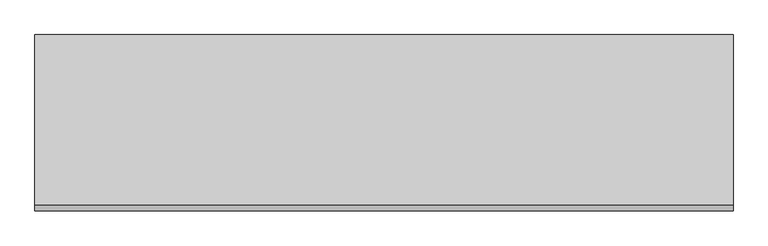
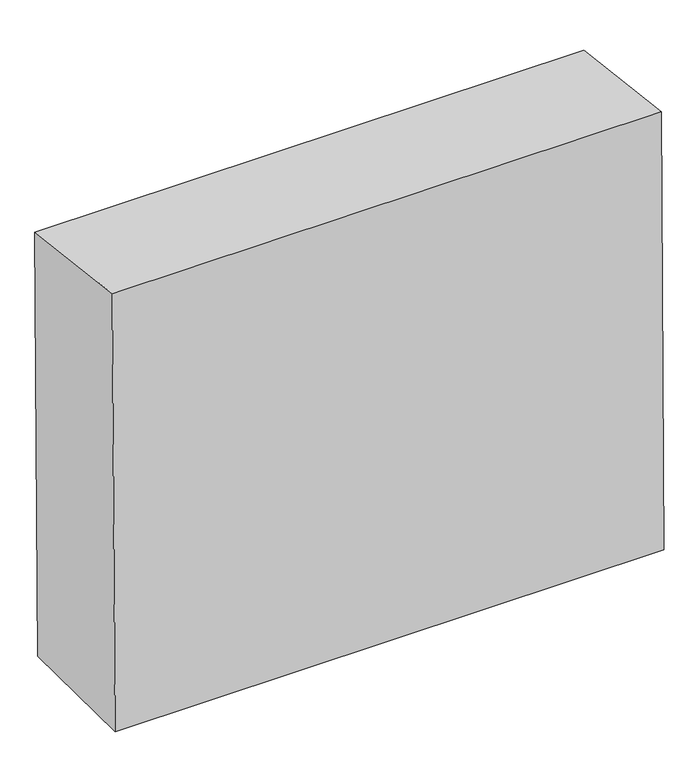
"""IFC4 building model written with IfcOpenShell, lengths in millimetres: proxy geometry, Excavation FamilySP : Excavation FamilySP."""

from ifc_helpers import new_model, si_unit, frame, origin, place, context, project, spatial, polyline, outline, extrude, source, transform, mapped, element, save


def generic_models_05e171b5(model_context):
    return source(origin(), model_context, "Body", "SweptSolid", [
        extrude(outline(polyline([(25.4772737, 2471.8799229), (0.0, 0.0), (-744.2565307, 7.6709338), (-717.9353468, 2561.4294921), (25.4772737, 2471.8799229)])), frame((-1524.0, 0.0, 0.0), z_axis=(1.0, 0.0, 0.0), x_axis=(0.0, 1.0, 0.0)), (0.0, 0.0, 1.0), 3048.0),
    ])


if __name__ == "__main__":
    model = new_model("IFC4")
    model_context = context("Model", 3, world=origin())
    ifc_project = project(units=[si_unit("LENGTHUNIT", "METRE", prefix="MILLI")], contexts=[model_context])
    site = spatial("IfcSite", under=ifc_project)
    building = spatial("IfcBuilding", under=site)
    placement = place(None, origin())
    generic_models_shape = generic_models_05e171b5(model_context)
    element("IfcBuildingElementProxy", 1, Name="Excavation FamilySP : Excavation FamilySP", ObjectType="Excavation FamilySP : Excavation FamilySP", at=placement, inside=building, context=model_context, shape_type="MappedRepresentation", body=[
        mapped(generic_models_shape, transform((0.0, 0.0, 0.0), x_axis=(1.0, 0.0, 0.0), y_axis=(0.0, 1.0, 0.0), z_axis=(0.0, 0.0, 1.0))),
    ])
    save(model, "model.ifc")
